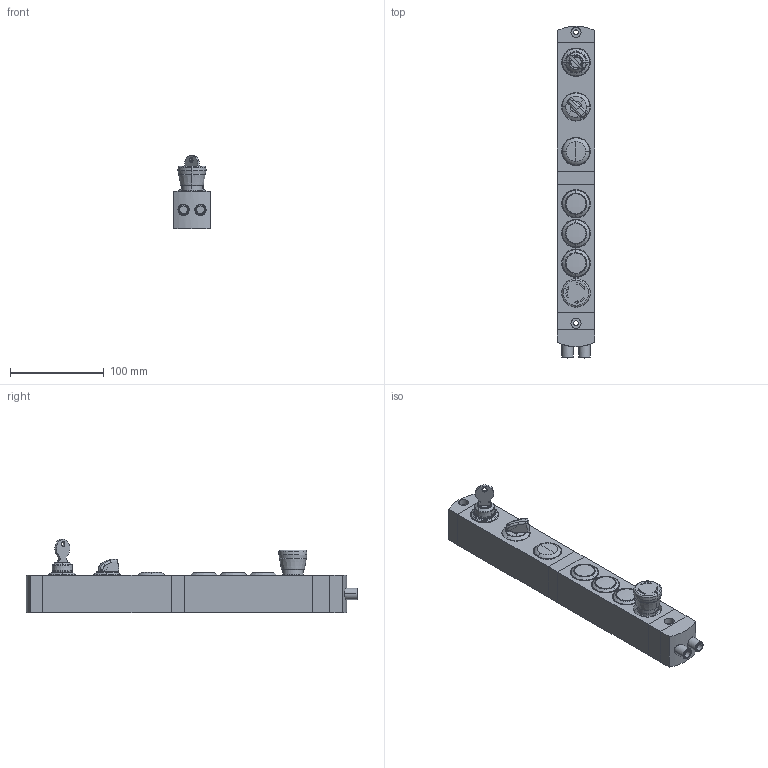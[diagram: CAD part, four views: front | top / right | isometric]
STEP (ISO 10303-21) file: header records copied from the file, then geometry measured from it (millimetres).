
FILE_DESCRIPTION (( 'STEP AP203' ), '1' );
FILE_NAME ('BN AC7ZA01.STEP', '2021-10-14T08:16:55', ( '' ), ( '' ), 'SwSTEP 2.0', 'SolidWorks 2020', '' );
FILE_SCHEMA (( 'CONFIG_CONTROL_DESIGN' ));
Length unit declared in the file: millimetre
Products named in the file (25): selettore_2; Device7; Pulsate emergenza rosso_3DWeb_26052; Pizzato_11133; Pulsante rasato_3DWeb_27126 blu; BN AC7ZA01; Device1; Connector; Device5; Device2; Pizzato_11135; 26043_chiave_26043; Indicatore luminoso_3DWeb_26062; Pizzato_11144; Device4; selettore_3; Pizzato_connettore_NS_RK; Pizzato_4dispositivi; selettore_4; Pulsante rasato_3DWeb_27121 bianco; Device6; Pulsante rasato_3DWeb_27125 giallo; 26043_26043; Pizzato_3dispositivi; Device3
Assembly tree (24 placements, depth 3):
  BN AC7ZA01
    Pizzato_11144
    Pizzato_11135
    Pizzato_3dispositivi
    Pizzato_11133
    Pizzato_4dispositivi
    Connector
      Pizzato_connettore_NS_RK
    Device1
      26043_26043
      26043_chiave_26043
    Device2
      selettore_4
      selettore_2
      selettore_3
    Device3
      Indicatore luminoso_3DWeb_26062
    Device4
      Pulsante rasato_3DWeb_27121 bianco
    Device5
      Pulsante rasato_3DWeb_27126 blu
    Device6
      Pulsante rasato_3DWeb_27125 giallo
    Device7
      Pulsate emergenza rosso_3DWeb_26052
Bounding box: 40 x 354.1 x 78.16 mm (x, y, z)
Volume: 579243.3 mm3; surface area: 111395.3 mm2
Topology: 16 solids, 20 shells, 1286 faces, 3286 edges, 2157 vertices
Faces by surface type: plane 715, cylinder 282, bspline 171, cone 97, torus 17, sphere 4
Entity records: 45080 total; most frequent: CARTESIAN_POINT 11945, ORIENTED_EDGE 6564, DIRECTION 5977, EDGE_CURVE 3282, VERTEX_POINT 2155, LINE 1999, VECTOR 1999, AXIS2_PLACEMENT_3D 1989
